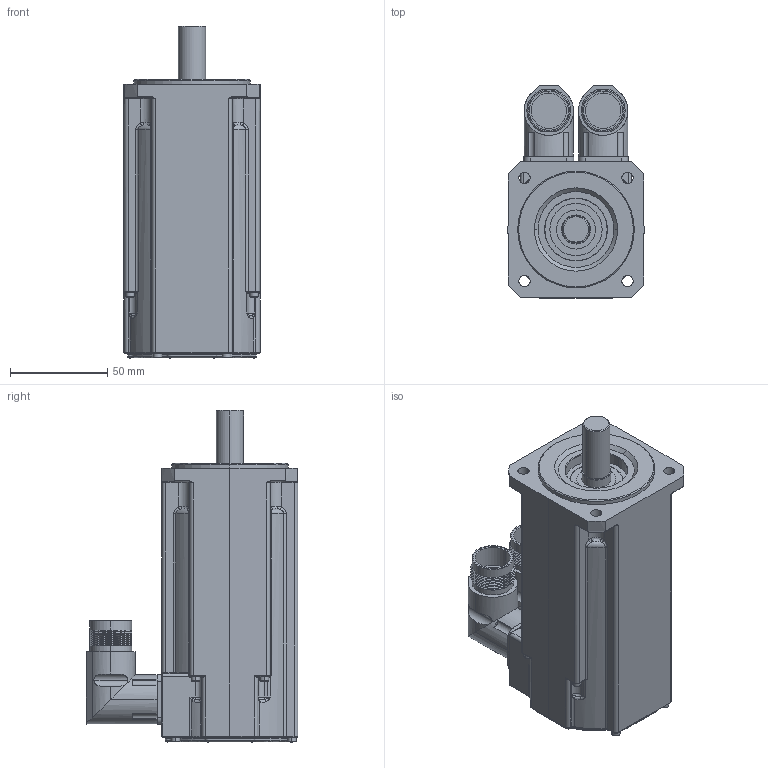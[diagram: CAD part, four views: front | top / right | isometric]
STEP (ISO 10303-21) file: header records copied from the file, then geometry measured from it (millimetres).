
FILE_DESCRIPTION (( 'STEP AP214' ), '1' );
FILE_NAME ('MR7732-Ux-Nxx-G01-A0D-M0-P0.stp', '2009-04-08T13:46:00', ( 'sysAdmin' ), ( 'SolidWorks' ), 'SwSTEP 2.0', 'SolidWorks 2009', '' );
FILE_SCHEMA (( 'AUTOMOTIVE_DESIGN' ));
Length unit declared in the file: millimetre
Products named in the file (1): MR7732-Ux-Nxx-G01-A0D-M0-P0
Bounding box: 70 x 109 x 170.8 mm (x, y, z)
Volume: 655569.6 mm3; surface area: 61484.7 mm2
Topology: 1 solids, 1 shells, 696 faces, 1656 edges, 956 vertices
Faces by surface type: cylinder 224, bspline 156, cone 126, plane 122, torus 66, sphere 2
Entity records: 26923 total; most frequent: CARTESIAN_POINT 9417, ORIENTED_EDGE 3248, DIRECTION 2924, EDGE_CURVE 1624, AXIS2_PLACEMENT_3D 1245, VERTEX_POINT 956, EDGE_LOOP 730, CIRCLE 704
